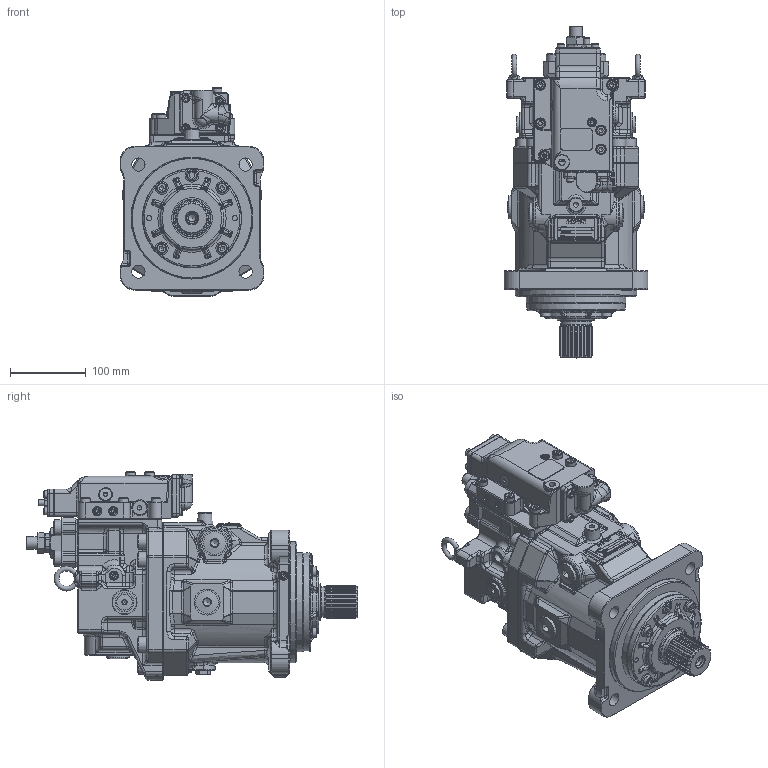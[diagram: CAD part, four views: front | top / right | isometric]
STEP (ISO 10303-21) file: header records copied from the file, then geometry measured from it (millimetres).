
FILE_DESCRIPTION(/* description */ (''),/* implementation_level */ '2;1');
FILE_NAME(/* name */ 'M7V112AC47-AA1P#XXXN-01.stp',/* time_stamp */ '2025-12-17T14:19:13Z',/* author */ ('Sjolliffe'),/* organization */ (''),/* preprocessor_version */ 'ST-DEVELOPER v20',/* originating_system */ 'Autodesk Inventor 2024',/* authorisation */ '');
FILE_SCHEMA (('CONFIG_CONTROL_DESIGN'));
Products named in the file (1): M7V112AC47-AA1P#XXXN-01
Bounding box: 190 x 437.9 x 275 mm (x, y, z)
Volume: 8272217 mm3; surface area: 394772.5 mm2
Topology: 1 solids, 1 shells, 4315 faces, 10824 edges, 6528 vertices
Faces by surface type: plane 1725, cylinder 1213, bspline 765, cone 363, torus 182, sphere 67
Full cylindrical faces by diameter (mm): 4 x1, 6 x1, 6.647 x6, 8 x2, 8.376 x1, 9.4 x16, 10 x8, 10.106 x9, 11 x8, 11.8 x1, 12 x14, 13 x10, 14 x7, 16 x2, 17 x4, 17.5 x4, 18 x2, 19 x1, 21 x15, 23 x12, 24 x2, 25 x4, 30 x6, 33 x2, 34 x5, 40 x1, 44 x1, 50 x1, 54 x1, 130 x1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
Entity records: 163803 total; most frequent: CARTESIAN_POINT 62089, ORIENTED_EDGE 21232, DIRECTION 19746, EDGE_CURVE 10616, AXIS2_PLACEMENT_3D 7376, VERTEX_POINT 6528, LINE 4994, VECTOR 4994
